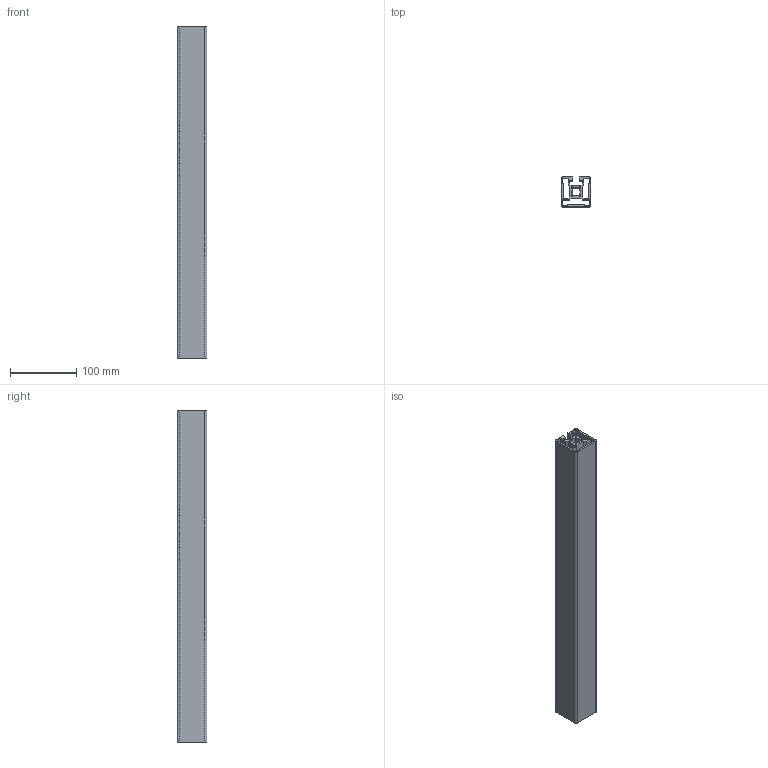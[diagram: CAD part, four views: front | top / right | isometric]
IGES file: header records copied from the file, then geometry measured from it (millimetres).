
Start section: SolidWorks IGES file using analytic representation for surfaces
Global section: file name: C:\Documents and Settings\Administrator\デスクトップ\指定保存後4回目\SolidWorks\SF\SF40・45\Frame\SFF-FF44.IGS; native system: SolidWorks 2006 by SolidWorks Corporation; preprocessor: SolidWorks 2006 by SolidWorks Corporation; author: Administrator; date: 061218.111401; units: millimetre
Bounding box: 45 x 45 x 500 mm (x, y, z)
Volume: 367982.5 mm3; surface area: 274863.3 mm2
Topology: 1 solids, 1 shells, 102 faces, 300 edges, 200 vertices
Faces by surface type: plane 53, revolution 49
